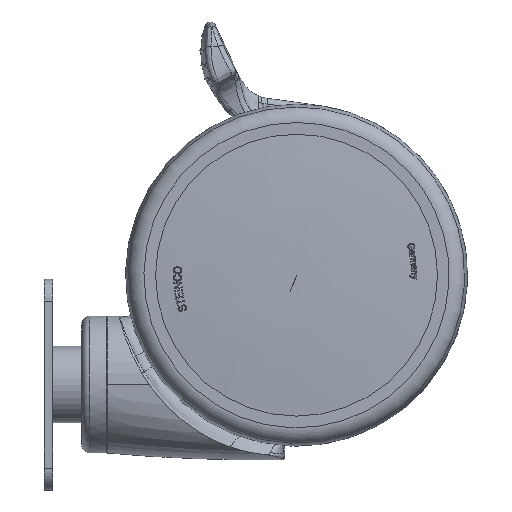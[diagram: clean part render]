
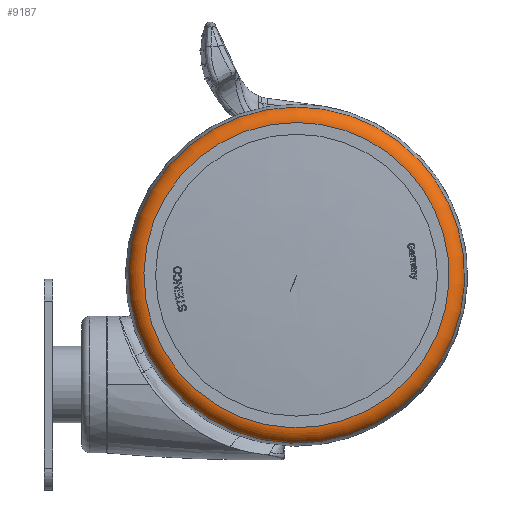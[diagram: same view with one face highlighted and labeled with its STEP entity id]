
A CAD part, left-side view. The second image highlights one B-rep face of the part: STEP entity #9187.
In plain terms, the highlighted toroidal (fillet/blend) face has major radius 55.778 mm and minor radius 6 mm.
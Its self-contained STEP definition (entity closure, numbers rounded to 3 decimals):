
#422=TOROIDAL_SURFACE('',#9794,55.778,6.);
#1028=CIRCLE('',#9792,55.778);
#1029=CIRCLE('',#9793,55.778);
#1030=CIRCLE('',#9795,61.417);
#1031=CIRCLE('',#9796,61.417);
#1032=CIRCLE('',#9797,6.);
#1656=FACE_OUTER_BOUND('',#2213,.T.);
#2213=EDGE_LOOP('',(#8309,#8310,#8311,#8312,#8313,#8314));
#4404=VERTEX_POINT('',#71725);
#4405=VERTEX_POINT('',#71726);
#4406=VERTEX_POINT('',#71730);
#4407=VERTEX_POINT('',#71731);
#5720=EDGE_CURVE('',#4404,#4405,#1028,.T.);
#5721=EDGE_CURVE('',#4405,#4404,#1029,.T.);
#5722=EDGE_CURVE('',#4406,#4407,#1030,.T.);
#5723=EDGE_CURVE('',#4407,#4406,#1031,.T.);
#5724=EDGE_CURVE('',#4407,#4405,#1032,.T.);
#8309=ORIENTED_EDGE('',*,*,#5722,.F.);
#8310=ORIENTED_EDGE('',*,*,#5723,.F.);
#8311=ORIENTED_EDGE('',*,*,#5724,.T.);
#8312=ORIENTED_EDGE('',*,*,#5721,.T.);
#8313=ORIENTED_EDGE('',*,*,#5720,.T.);
#8314=ORIENTED_EDGE('',*,*,#5724,.F.);
#9187=ADVANCED_FACE('',(#1656),#422,.T.);
#9792=AXIS2_PLACEMENT_3D('',#71727,#11256,#11257);
#9793=AXIS2_PLACEMENT_3D('',#71728,#11258,#11259);
#9794=AXIS2_PLACEMENT_3D('',#71729,#11260,#11261);
#9795=AXIS2_PLACEMENT_3D('',#71732,#11262,#11263);
#9796=AXIS2_PLACEMENT_3D('',#71733,#11264,#11265);
#9797=AXIS2_PLACEMENT_3D('',#71734,#11266,#11267);
#11256=DIRECTION('center_axis',(1.,0.,0.));
#11257=DIRECTION('ref_axis',(0.,-0.993,0.117));
#11258=DIRECTION('center_axis',(1.,0.,0.));
#11259=DIRECTION('ref_axis',(0.,-0.993,0.117));
#11260=DIRECTION('center_axis',(1.,0.,0.));
#11261=DIRECTION('ref_axis',(0.,0.,-1.));
#11262=DIRECTION('center_axis',(1.,0.,0.));
#11263=DIRECTION('ref_axis',(0.,-0.993,0.117));
#11264=DIRECTION('center_axis',(1.,0.,0.));
#11265=DIRECTION('ref_axis',(0.,-0.993,0.117));
#11266=DIRECTION('center_axis',(0.,-1.,0.));
#11267=DIRECTION('ref_axis',(0.,0.,1.));
#71725=CARTESIAN_POINT('',(-38.3,-147.521,46.54));
#71726=CARTESIAN_POINT('',(-38.3,-92.128,95.778));
#71727=CARTESIAN_POINT('Origin',(-38.3,-92.128,40.));
#71728=CARTESIAN_POINT('Origin',(-38.3,-92.128,40.));
#71729=CARTESIAN_POINT('Origin',(-32.3,-92.128,40.));
#71730=CARTESIAN_POINT('',(-34.35,-153.121,47.201));
#71731=CARTESIAN_POINT('',(-34.35,-92.128,101.417));
#71732=CARTESIAN_POINT('Origin',(-34.35,-92.128,40.));
#71733=CARTESIAN_POINT('Origin',(-34.35,-92.128,40.));
#71734=CARTESIAN_POINT('Origin',(-32.3,-92.128,95.778));
